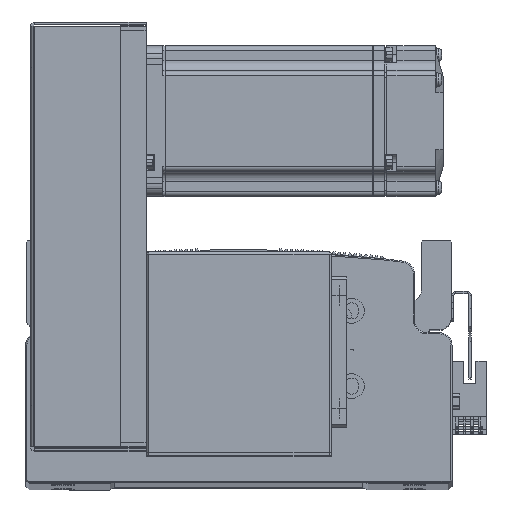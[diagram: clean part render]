
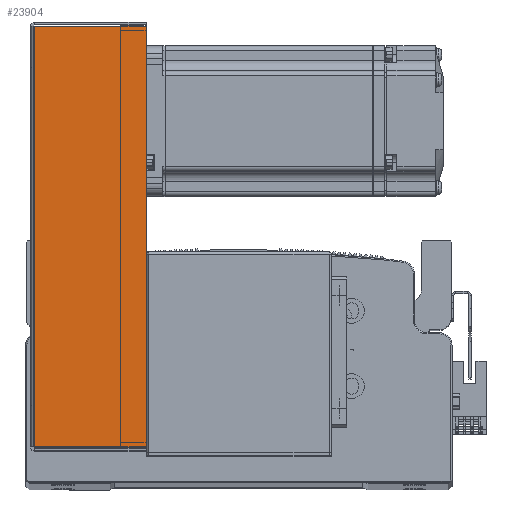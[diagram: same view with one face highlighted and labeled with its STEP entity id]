
A CAD part, top view. The second image highlights one B-rep face of the part: STEP entity #23904.
In plain terms, the highlighted planar face has unit normal (0, 0, 1) as drawn and (0, 0, -1) by its records, which use the part's own axes.
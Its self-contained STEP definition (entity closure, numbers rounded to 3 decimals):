
#1877 = ORIENTED_EDGE ( 'NONE', *, *, #67967, .F. ) ;
#1902 = ORIENTED_EDGE ( 'NONE', *, *, #67931, .F. ) ;
#1972 = ORIENTED_EDGE ( 'NONE', *, *, #67994, .T. ) ;
#1989 = ORIENTED_EDGE ( 'NONE', *, *, #68007, .T. ) ;
#7977 = VERTEX_POINT ( 'NONE', #70482 ) ;
#7983 = VERTEX_POINT ( 'NONE', #70475 ) ;
#7987 = VERTEX_POINT ( 'NONE', #70472 ) ;
#8005 = VERTEX_POINT ( 'NONE', #70497 ) ;
#23904 = ADVANCED_FACE ( 'NONE', ( #60667 ), #57139, .F. ) ;
#40174 = EDGE_LOOP ( 'NONE', ( #1877, #1972, #1989, #1902 ) ) ;
#42471 = LINE ( 'NONE', #46022, #42492 ) ;
#42492 = VECTOR ( 'NONE', #45982, 1000. ) ;
#42504 = VECTOR ( 'NONE', #50871, 1000. ) ;
#42523 = LINE ( 'NONE', #50859, #42504 ) ;
#42564 = LINE ( 'NONE', #50927, #42581 ) ;
#42573 = LINE ( 'NONE', #50972, #42614 ) ;
#42581 = VECTOR ( 'NONE', #50945, 1000. ) ;
#42614 = VECTOR ( 'NONE', #50959, 1000. ) ;
#45982 = DIRECTION ( 'NONE',  ( 0., 1., 0. ) ) ;
#46022 = CARTESIAN_POINT ( 'NONE',  ( 83.793, 0., -40.5 ) ) ;
#50859 = CARTESIAN_POINT ( 'NONE',  ( 0., 0.737, -40.5 ) ) ;
#50871 = DIRECTION ( 'NONE',  ( 1., 0., 0. ) ) ;
#50927 = CARTESIAN_POINT ( 'NONE',  ( -83.793, 0., -40.5 ) ) ;
#50945 = DIRECTION ( 'NONE',  ( 0., 1., 0. ) ) ;
#50959 = DIRECTION ( 'NONE',  ( 1., 0., 0. ) ) ;
#50972 = CARTESIAN_POINT ( 'NONE',  ( 84.5, 45., -40.5 ) ) ;
#57011 = CARTESIAN_POINT ( 'NONE',  ( 0., 0., -40.5 ) ) ;
#57097 = DIRECTION ( 'NONE',  ( 0., 0., 1. ) ) ;
#57118 = DIRECTION ( 'NONE',  ( 0., -1., 0. ) ) ;
#57139 = PLANE ( 'NONE',  #63547 ) ;
#60667 = FACE_OUTER_BOUND ( 'NONE', #40174, .T. ) ;
#63547 = AXIS2_PLACEMENT_3D ( 'NONE', #57011, #57097, #57118 ) ;
#67931 = EDGE_CURVE ( 'NONE', #7983, #7977, #42471, .T. ) ;
#67967 = EDGE_CURVE ( 'NONE', #8005, #7983, #42523, .T. ) ;
#67994 = EDGE_CURVE ( 'NONE', #8005, #7987, #42564, .T. ) ;
#68007 = EDGE_CURVE ( 'NONE', #7987, #7977, #42573, .T. ) ;
#70472 = CARTESIAN_POINT ( 'NONE',  ( -83.793, 45., -40.5 ) ) ;
#70475 = CARTESIAN_POINT ( 'NONE',  ( 83.793, 0.737, -40.5 ) ) ;
#70482 = CARTESIAN_POINT ( 'NONE',  ( 83.793, 45., -40.5 ) ) ;
#70497 = CARTESIAN_POINT ( 'NONE',  ( -83.793, 0.737, -40.5 ) ) ;
